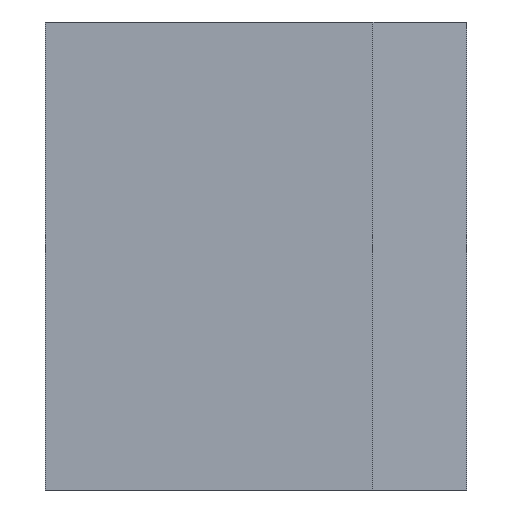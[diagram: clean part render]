
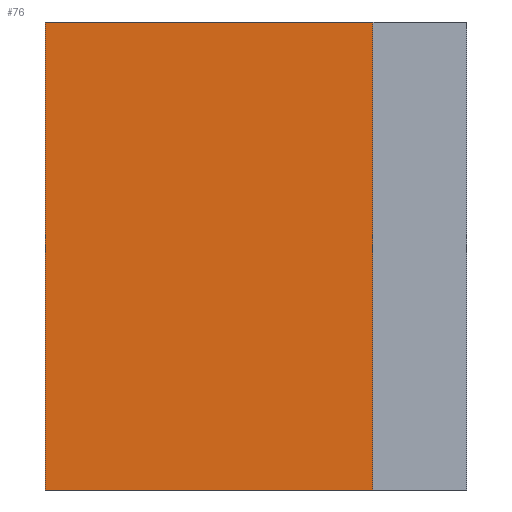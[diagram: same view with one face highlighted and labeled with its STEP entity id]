
A CAD part, left-side view. The second image highlights one B-rep face of the part: STEP entity #76.
In plain terms, the highlighted planar face has unit normal (-1, 0, 0).
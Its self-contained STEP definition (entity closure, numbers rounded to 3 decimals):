
#76 = ADVANCED_FACE( '', ( #180 ), #181, .F. );
#180 = FACE_OUTER_BOUND( '', #307, .T. );
#181 = PLANE( '', #308 );
#307 = EDGE_LOOP( '', ( #464, #465, #466, #467 ) );
#308 = AXIS2_PLACEMENT_3D( '', #468, #469, #470 );
#464 = ORIENTED_EDGE( '', *, *, #645, .T. );
#465 = ORIENTED_EDGE( '', *, *, #615, .T. );
#466 = ORIENTED_EDGE( '', *, *, #646, .F. );
#467 = ORIENTED_EDGE( '', *, *, #604, .T. );
#468 = CARTESIAN_POINT( '', ( 0., 18., 20. ) );
#469 = DIRECTION( '', ( 1., 0., 0. ) );
#470 = DIRECTION( '', ( 0., 1., 0. ) );
#604 = EDGE_CURVE( '', #695, #693, #696, .T. );
#615 = EDGE_CURVE( '', #714, #711, #715, .T. );
#645 = EDGE_CURVE( '', #693, #714, #764, .T. );
#646 = EDGE_CURVE( '', #695, #711, #765, .T. );
#693 = VERTEX_POINT( '', #823 );
#695 = VERTEX_POINT( '', #826 );
#696 = LINE( '', #827, #828 );
#711 = VERTEX_POINT( '', #845 );
#714 = VERTEX_POINT( '', #849 );
#715 = LINE( '', #850, #851 );
#764 = LINE( '', #1007, #1008 );
#765 = LINE( '', #1009, #1010 );
#823 = CARTESIAN_POINT( '', ( 0., 18., 0. ) );
#826 = CARTESIAN_POINT( '', ( 0., 18., 20. ) );
#827 = CARTESIAN_POINT( '', ( 0., 18., 20. ) );
#828 = VECTOR( '', #1084, 1000. );
#845 = CARTESIAN_POINT( '', ( 0., 4., 20. ) );
#849 = CARTESIAN_POINT( '', ( 0., 4., 0. ) );
#850 = CARTESIAN_POINT( '', ( 0., 4., 20. ) );
#851 = VECTOR( '', #1100, 1000. );
#1007 = CARTESIAN_POINT( '', ( 0., 18., 0. ) );
#1008 = VECTOR( '', #1140, 1000. );
#1009 = CARTESIAN_POINT( '', ( 0., 18., 20. ) );
#1010 = VECTOR( '', #1141, 1000. );
#1084 = DIRECTION( '', ( 0., 0., -1. ) );
#1100 = DIRECTION( '', ( 0., 0., 1. ) );
#1140 = DIRECTION( '', ( 0., -1., 0. ) );
#1141 = DIRECTION( '', ( 0., -1., 0. ) );
